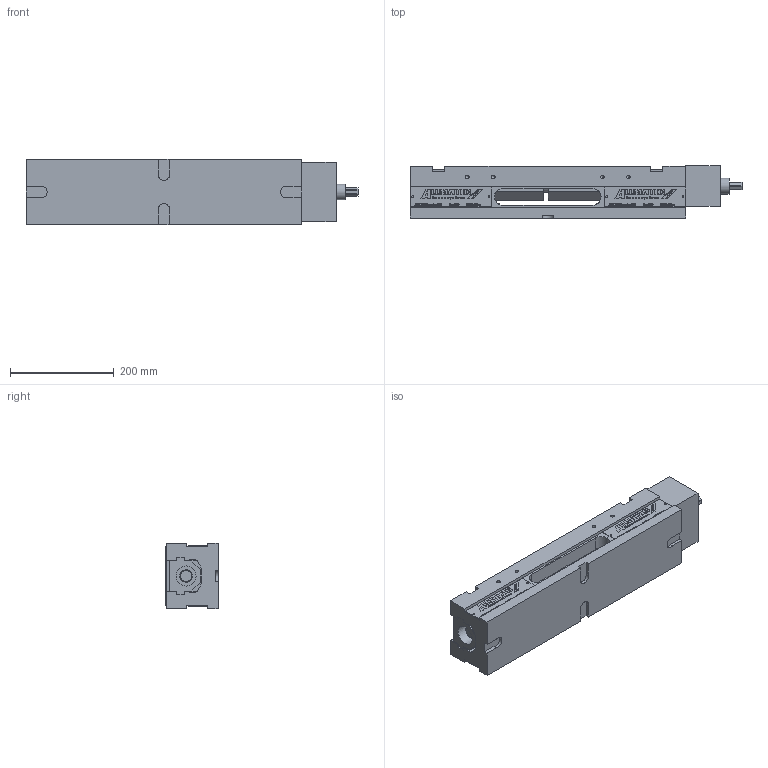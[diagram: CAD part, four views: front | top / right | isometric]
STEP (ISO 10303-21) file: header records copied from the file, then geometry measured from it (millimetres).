
FILE_DESCRIPTION (( 'STEP AP203' ), '1' );
FILE_NAME ('3D-6921488000955.STEP', '2023-06-22T06:41:59', ( '' ), ( '' ), 'SwSTEP 2.0', 'SolidWorks 2021', '' );
FILE_SCHEMA (( 'CONFIG_CONTROL_DESIGN' ));
Products named in the file (1): 3D-6921488000955
Bounding box: 638.7 x 100.75 x 126 mm (x, y, z)
Volume: 5999867.9 mm3; surface area: 567074.5 mm2
Topology: 5 solids, 5 shells, 6117 faces, 16695 edges, 11099 vertices
Faces by surface type: plane 4267, bspline 1556, cylinder 209, cone 85
Full cylindrical faces by diameter (mm): 3.8 x8, 6.8 x8, 8.5 x8, 10.2 x28, 12.1 x8, 24 x3, 30.5 x1, 38.5 x1
Entity records: 267893 total; most frequent: CARTESIAN_POINT 124038, ORIENTED_EDGE 32990, DIRECTION 22954, EDGE_CURVE 16495, VECTOR 12904, LINE 12904, VERTEX_POINT 11049, EDGE_LOOP 6814
